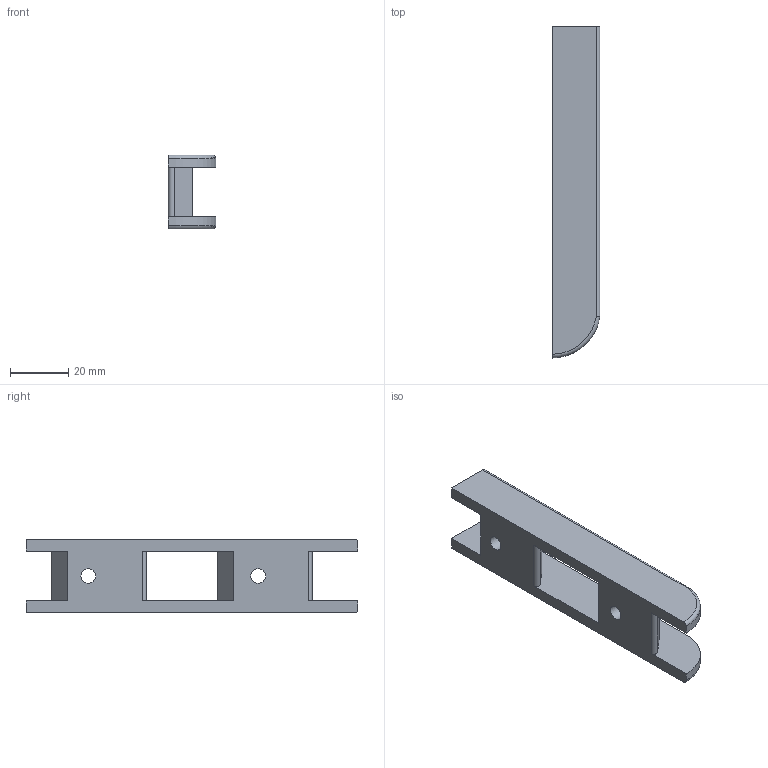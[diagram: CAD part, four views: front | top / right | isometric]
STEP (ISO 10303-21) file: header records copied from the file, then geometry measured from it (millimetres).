
FILE_DESCRIPTION(/* description */ ('STEP AP242','CAx-IF Rec.Pracs.---Representation and Presentation of Product Manufacturing Information (PMI)---4.0---2014-10-13','CAx-IF Rec.Pracs.---3D Tessellated Geometry---0.4---2014-09-14','2;1'),/* implementation_level */ '2;1');
FILE_NAME(/* name */ '677d9505ff4da4659b3b0cf8',/* time_stamp */ '2025-01-07T20:56:37Z',/* author */ (''),/* organization */ (''),/* preprocessor_version */ 'ST-DEVELOPER v20',/* originating_system */ 'ONSHAPE BY PTC INC, 1.191',/* authorisation */ ' ');
FILE_SCHEMA (('AP242_MANAGED_MODEL_BASED_3D_ENGINEERING_MIM_LF { 1 0 10303 442 1 1 4 }'));
Length unit declared in the file: metre
Products named in the file (1): Wall Bracket-4.5
Bounding box: 16.51 x 114.3 x 25.4 mm (x, y, z)
Volume: 22082.5 mm3; surface area: 11131.7 mm2
Topology: 1 solids, 1 shells, 33 faces, 88 edges, 58 vertices
Faces by surface type: plane 17, cylinder 12, torus 2, cone 2
Full cylindrical faces by diameter (mm): 5.08 x2, 12.7 x2
Entity records: 1024 total; most frequent: CARTESIAN_POINT 178, DIRECTION 174, ORIENTED_EDGE 160, EDGE_CURVE 80, AXIS2_PLACEMENT_3D 62, VERTEX_POINT 56, LINE 50, VECTOR 50
